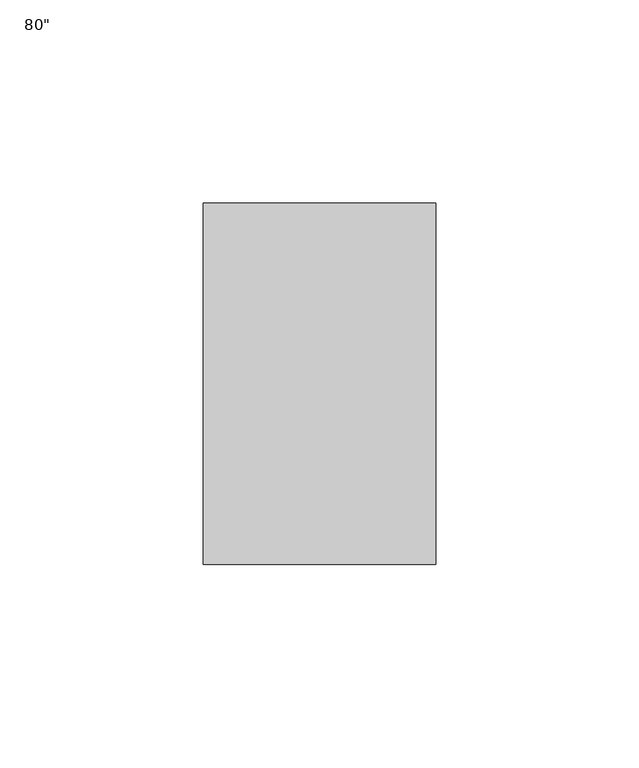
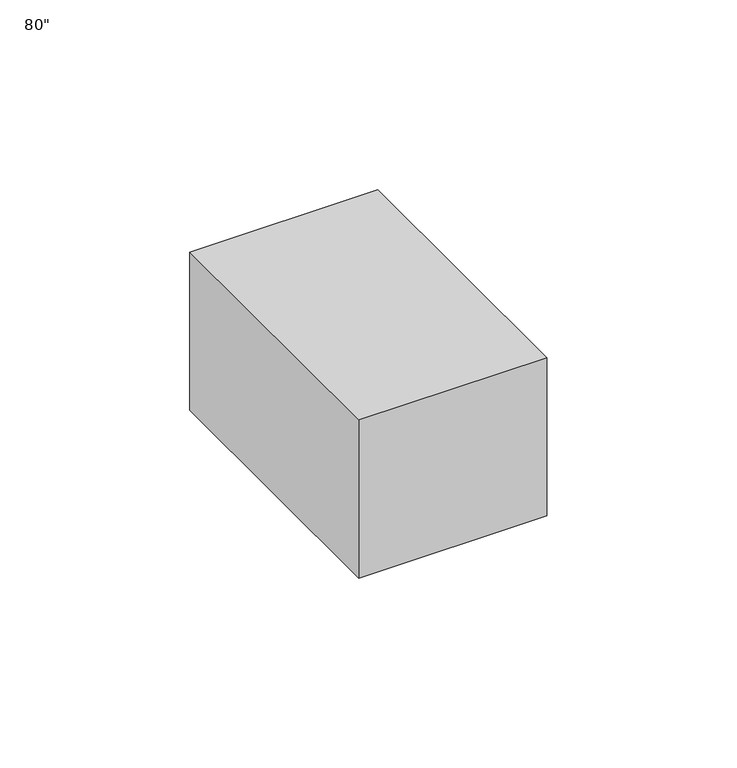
"""IFC4 building model written with IfcOpenShell, lengths in millimetres: proxy geometry."""

from ifc_helpers import new_model, si_unit, frame, origin, place, context, project, spatial, polyline, outline, extrude, source, transform, mapped, element, save


def proxy_df6c0c0f(model_context):
    return source(origin(), model_context, "Body", "SweptSolid", [
        extrude(outline(polyline([(28.575, 2076.45), (28.575, 1987.55), (-28.575, 1987.55), (-28.575, 2076.45), (28.575, 2076.45)])), frame((0.0, 0.0, -53.975), z_axis=(0.0, 0.0, 1.0), x_axis=(1.0, 0.0, 0.0)), (0.0, 0.0, 1.0), 50.8),
    ])


if __name__ == "__main__":
    model = new_model("IFC4")
    model_context = context("Model", 3, world=origin())
    ifc_project = project(units=[si_unit("LENGTHUNIT", "METRE", prefix="MILLI")], contexts=[model_context])
    site = spatial("IfcSite", under=ifc_project)
    building = spatial("IfcBuilding", under=site)
    placement = place(None, origin())
    proxy_shape = proxy_df6c0c0f(model_context)
    element("IfcBuildingElementProxy", 1, Name="BA_EF - Junction Box NO PLATE : 80\"", ObjectType="BA_EF - Junction Box NO PLATE : 80\"", at=placement, inside=building, context=model_context, shape_type="MappedRepresentation", body=[
        mapped(proxy_shape, transform((0.0, 0.0, 0.0), x_axis=(1.0, 0.0, 0.0), y_axis=(0.0, 1.0, 0.0), z_axis=(0.0, 0.0, 1.0))),
    ])
    save(model, "model.ifc")
